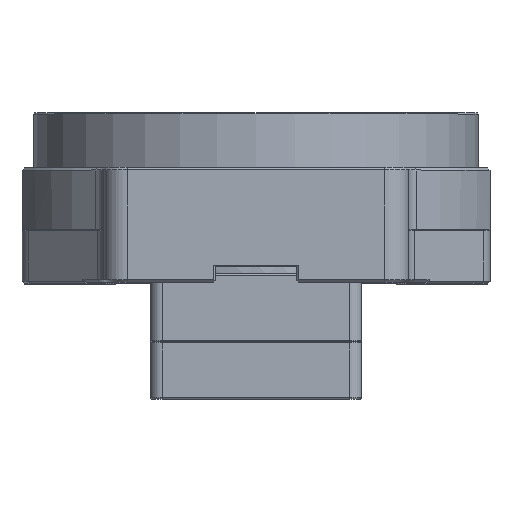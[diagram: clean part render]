
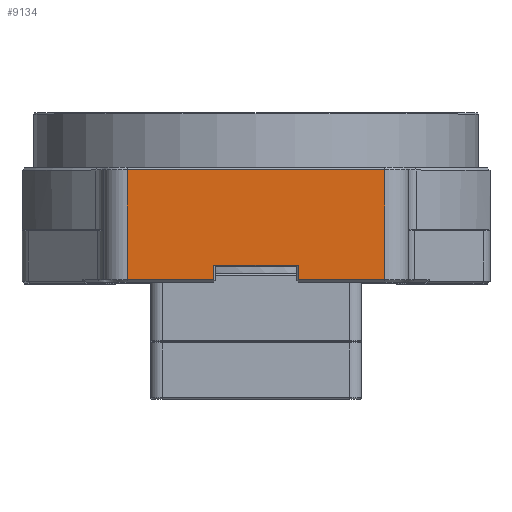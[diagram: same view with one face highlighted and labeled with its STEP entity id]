
A CAD part, top view. The second image highlights one B-rep face of the part: STEP entity #9134.
In plain terms, the highlighted planar face has unit normal (0, 0, 1).
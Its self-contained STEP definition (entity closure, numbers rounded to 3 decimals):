
#765 = DIRECTION ( 'NONE',  ( 0., -1., 0. ) ) ;
#789 = EDGE_CURVE ( 'NONE', #6415, #18349, #17248, .T. ) ;
#797 = VECTOR ( 'NONE', #954, 1000. ) ;
#878 = CARTESIAN_POINT ( 'NONE',  ( 55., 7.7, 155. ) ) ;
#954 = DIRECTION ( 'NONE',  ( 1., 0., 0. ) ) ;
#1018 = VERTEX_POINT ( 'NONE', #7386 ) ;
#1076 = VECTOR ( 'NONE', #13751, 1000. ) ;
#1079 = VERTEX_POINT ( 'NONE', #2350 ) ;
#1426 = VECTOR ( 'NONE', #1802, 1000. ) ;
#1577 = LINE ( 'NONE', #13856, #1076 ) ;
#1802 = DIRECTION ( 'NONE',  ( 0., -1., 0. ) ) ;
#2140 = VECTOR ( 'NONE', #4107, 1000. ) ;
#2295 = VECTOR ( 'NONE', #765, 1000. ) ;
#2350 = CARTESIAN_POINT ( 'NONE',  ( -18., 7.7, 155. ) ) ;
#2462 = VERTEX_POINT ( 'NONE', #4770 ) ;
#2573 = LINE ( 'NONE', #878, #797 ) ;
#2787 = VERTEX_POINT ( 'NONE', #7949 ) ;
#2887 = DIRECTION ( 'NONE',  ( 0., -1., 0. ) ) ;
#3462 = CARTESIAN_POINT ( 'NONE',  ( 18., 49.5, 155. ) ) ;
#4107 = DIRECTION ( 'NONE',  ( 1., 0., 0. ) ) ;
#4770 = CARTESIAN_POINT ( 'NONE',  ( -18., 1.5, 155. ) ) ;
#5454 = CARTESIAN_POINT ( 'NONE',  ( 55., 1.5, 155. ) ) ;
#5461 = EDGE_LOOP ( 'NONE', ( #15848, #16262, #16983, #17184, #17732, #17960, #18186, #18564 ) ) ;
#6415 = VERTEX_POINT ( 'NONE', #8606 ) ;
#6611 = DIRECTION ( 'NONE',  ( -1., 0., 0. ) ) ;
#6617 = DIRECTION ( 'NONE',  ( 0., 0., -1. ) ) ;
#6646 = LINE ( 'NONE', #9061, #14918 ) ;
#6809 = PLANE ( 'NONE',  #12352 ) ;
#6844 = CARTESIAN_POINT ( 'NONE',  ( 55., 49.5, 155. ) ) ;
#7086 = FACE_OUTER_BOUND ( 'NONE', #5461, .T. ) ;
#7386 = CARTESIAN_POINT ( 'NONE',  ( 55., 48.5, 155. ) ) ;
#7430 = CARTESIAN_POINT ( 'NONE',  ( 55., 49.5, 155. ) ) ;
#7621 = LINE ( 'NONE', #9345, #2295 ) ;
#7949 = CARTESIAN_POINT ( 'NONE',  ( -55., 48.5, 155. ) ) ;
#8606 = CARTESIAN_POINT ( 'NONE',  ( 18., 7.7, 155. ) ) ;
#9061 = CARTESIAN_POINT ( 'NONE',  ( -55., 48.5, 155. ) ) ;
#9134 = ADVANCED_FACE ( 'NONE', ( #7086 ), #6809, .F. ) ;
#9345 = CARTESIAN_POINT ( 'NONE',  ( -55., 49.5, 155. ) ) ;
#10750 = EDGE_CURVE ( 'NONE', #2462, #1079, #18867, .T. ) ;
#11287 = CARTESIAN_POINT ( 'NONE',  ( 18., 1.5, 155. ) ) ;
#11304 = EDGE_CURVE ( 'NONE', #18349, #18592, #1577, .T. ) ;
#11916 = LINE ( 'NONE', #16789, #2140 ) ;
#12155 = CARTESIAN_POINT ( 'NONE',  ( -55., 1.5, 155. ) ) ;
#12352 = AXIS2_PLACEMENT_3D ( 'NONE', #6844, #6617, #6611 ) ;
#12435 = EDGE_CURVE ( 'NONE', #1079, #6415, #2573, .T. ) ;
#12484 = DIRECTION ( 'NONE',  ( -1., 0., 0. ) ) ;
#13751 = DIRECTION ( 'NONE',  ( 1., 0., 0. ) ) ;
#13856 = CARTESIAN_POINT ( 'NONE',  ( 55., 1.5, 155. ) ) ;
#14918 = VECTOR ( 'NONE', #12484, 1000. ) ;
#15345 = VECTOR ( 'NONE', #19504, 1000. ) ;
#15848 = ORIENTED_EDGE ( 'NONE', *, *, #12435, .T. ) ;
#16262 = ORIENTED_EDGE ( 'NONE', *, *, #789, .T. ) ;
#16789 = CARTESIAN_POINT ( 'NONE',  ( -17.5, 1.5, 155. ) ) ;
#16796 = VECTOR ( 'NONE', #2887, 1000. ) ;
#16813 = EDGE_CURVE ( 'NONE', #2787, #19725, #7621, .T. ) ;
#16983 = ORIENTED_EDGE ( 'NONE', *, *, #11304, .T. ) ;
#17184 = ORIENTED_EDGE ( 'NONE', *, *, #18030, .F. ) ;
#17248 = LINE ( 'NONE', #3462, #16796 ) ;
#17732 = ORIENTED_EDGE ( 'NONE', *, *, #17867, .T. ) ;
#17867 = EDGE_CURVE ( 'NONE', #1018, #2787, #6646, .T. ) ;
#17960 = ORIENTED_EDGE ( 'NONE', *, *, #16813, .T. ) ;
#18030 = EDGE_CURVE ( 'NONE', #1018, #18592, #18138, .T. ) ;
#18138 = LINE ( 'NONE', #7430, #1426 ) ;
#18186 = ORIENTED_EDGE ( 'NONE', *, *, #19717, .T. ) ;
#18349 = VERTEX_POINT ( 'NONE', #11287 ) ;
#18564 = ORIENTED_EDGE ( 'NONE', *, *, #10750, .T. ) ;
#18592 = VERTEX_POINT ( 'NONE', #5454 ) ;
#18867 = LINE ( 'NONE', #19529, #15345 ) ;
#19504 = DIRECTION ( 'NONE',  ( 0., 1., 0. ) ) ;
#19529 = CARTESIAN_POINT ( 'NONE',  ( -18., 49.5, 155. ) ) ;
#19717 = EDGE_CURVE ( 'NONE', #19725, #2462, #11916, .T. ) ;
#19725 = VERTEX_POINT ( 'NONE', #12155 ) ;
